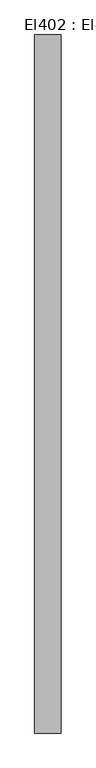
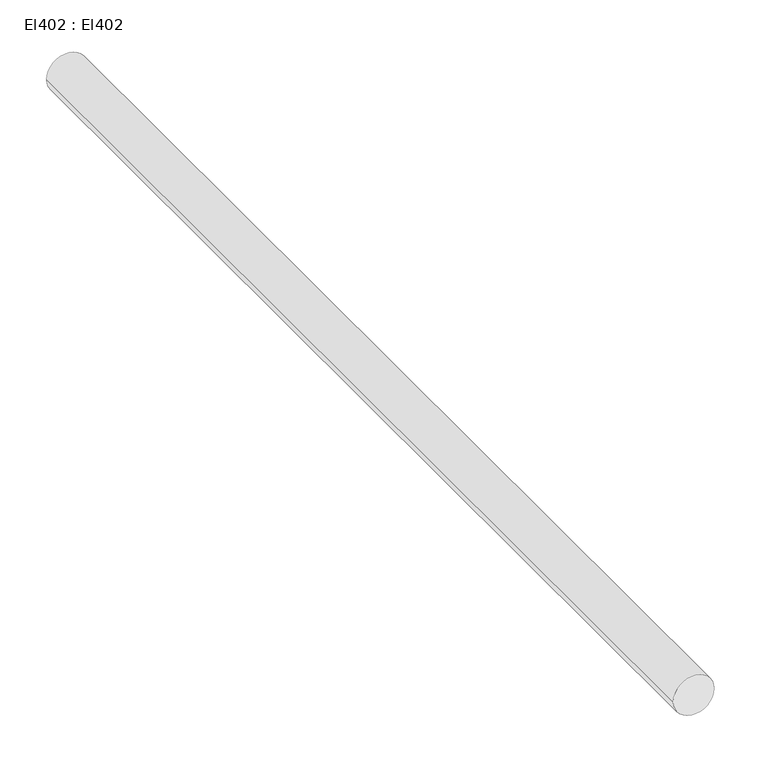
"""IFC4 building model written with IfcOpenShell, lengths in millimetres: cable carrier segment geometry, El402 : El402."""

from ifc_helpers import new_model, si_unit, point, frame, frame_2d, origin, place, context, project, spatial, circle_curve, trimmed, segment, composite_curve, outline, extrude, source, transform, mapped, element, save


def el402_el402_21150ce7(model_context):
    return source(origin(), model_context, "Body", "SweptSolid", [
        extrude(outline(composite_curve([segment(trimmed(circle_curve(frame_2d((2950.0, 7844.94)), 25.4), [point((2950.0, 7819.54))], [point((2950.0, 7870.34))], False, "CARTESIAN"), True, "CONTINUOUS"), segment(trimmed(circle_curve(frame_2d((2950.0, 7844.94)), 25.4), [point((2950.0, 7870.34))], [point((2950.0, 7819.54))], False, "CARTESIAN"), True, "CONTINUOUS")], self_intersect=False)), frame((0.0, 27759.004, 0.0), z_axis=(0.0, 1.0, 0.0), x_axis=(0.0, 0.0, 1.0)), (0.0, 0.0, 1.0), 1343.79),
    ])


if __name__ == "__main__":
    model = new_model("IFC4")
    model_context = context("Model", 3, world=origin())
    ifc_project = project(units=[si_unit("LENGTHUNIT", "METRE", prefix="MILLI")], contexts=[model_context])
    site = spatial("IfcSite", under=ifc_project)
    building = spatial("IfcBuilding", under=site)
    placement = place(None, origin())
    el402_el402_shape = el402_el402_21150ce7(model_context)
    element("IfcCableCarrierSegment", 1, ObjectType="El402 : El402", at=placement, inside=building, context=model_context, shape_type="MappedRepresentation", body=[
        mapped(el402_el402_shape, transform((0.0, 0.0, 0.0), x_axis=(1.0, 0.0, 0.0), y_axis=(0.0, 1.0, 0.0), z_axis=(0.0, 0.0, 1.0))),
    ])
    save(model, "model.ifc")
